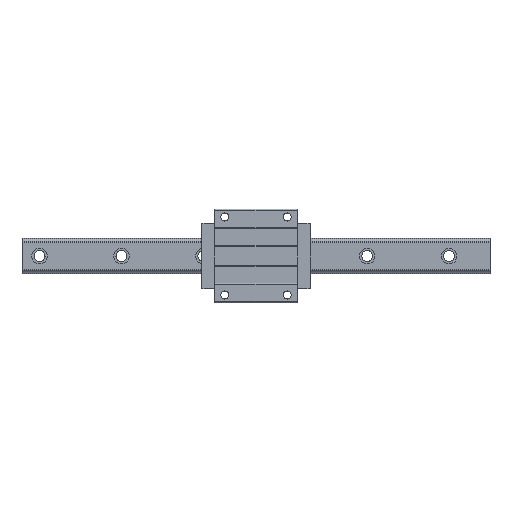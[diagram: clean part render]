
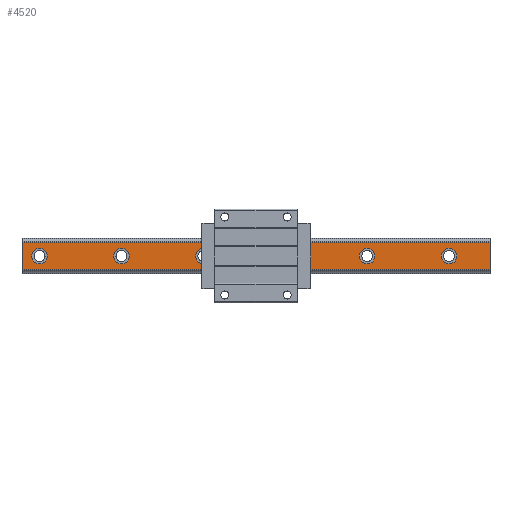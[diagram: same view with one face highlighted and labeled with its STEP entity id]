
A CAD part, top view. The second image highlights one B-rep face of the part: STEP entity #4520.
In plain terms, the highlighted planar face has unit normal (0, 0, 1).
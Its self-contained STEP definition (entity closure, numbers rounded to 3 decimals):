
#89 = VECTOR ( 'NONE', #6779, 1000. ) ;
#90 = AXIS2_PLACEMENT_3D ( 'NONE', #5292, #194, #723 ) ;
#138 = EDGE_LOOP ( 'NONE', ( #2060, #4748 ) ) ;
#194 = DIRECTION ( 'NONE',  ( 0., 0., 1. ) ) ;
#253 = ORIENTED_EDGE ( 'NONE', *, *, #2236, .F. ) ;
#270 = CIRCLE ( 'NONE', #2294, 10. ) ;
#301 = VERTEX_POINT ( 'NONE', #1741 ) ;
#349 = DIRECTION ( 'NONE',  ( 0., 0., 1. ) ) ;
#407 = CARTESIAN_POINT ( 'NONE',  ( 247.5, 0., 32. ) ) ;
#417 = CARTESIAN_POINT ( 'NONE',  ( 237.5, 0., 32. ) ) ;
#425 = ORIENTED_EDGE ( 'NONE', *, *, #3171, .T. ) ;
#450 = FACE_BOUND ( 'NONE', #6585, .T. ) ;
#548 = CARTESIAN_POINT ( 'NONE',  ( -77.5, 0., 32. ) ) ;
#597 = CARTESIAN_POINT ( 'NONE',  ( -57.5, 0., 32. ) ) ;
#604 = CARTESIAN_POINT ( 'NONE',  ( 300., -17.738, 32. ) ) ;
#607 = CARTESIAN_POINT ( 'NONE',  ( -67.5, 0., 32. ) ) ;
#614 = CARTESIAN_POINT ( 'NONE',  ( -162.5, 0., 32. ) ) ;
#723 = DIRECTION ( 'NONE',  ( 1., 0., 0. ) ) ;
#748 = DIRECTION ( 'NONE',  ( 0., 0., 1. ) ) ;
#755 = CIRCLE ( 'NONE', #4945, 10. ) ;
#757 = DIRECTION ( 'NONE',  ( 1., 0., 0. ) ) ;
#876 = CIRCLE ( 'NONE', #5418, 10. ) ;
#878 = AXIS2_PLACEMENT_3D ( 'NONE', #604, #5030, #5660 ) ;
#943 = EDGE_CURVE ( 'NONE', #4125, #6865, #7343, .T. ) ;
#985 = EDGE_CURVE ( 'NONE', #6865, #301, #1689, .T. ) ;
#1014 = VERTEX_POINT ( 'NONE', #417 ) ;
#1050 = ORIENTED_EDGE ( 'NONE', *, *, #2017, .F. ) ;
#1054 = PLANE ( 'NONE',  #878 ) ;
#1090 = FACE_BOUND ( 'NONE', #1979, .T. ) ;
#1099 = ORIENTED_EDGE ( 'NONE', *, *, #985, .F. ) ;
#1108 = AXIS2_PLACEMENT_3D ( 'NONE', #4241, #7073, #757 ) ;
#1227 = VERTEX_POINT ( 'NONE', #6930 ) ;
#1268 = DIRECTION ( 'NONE',  ( 1., 0., 0. ) ) ;
#1280 = DIRECTION ( 'NONE',  ( 0., 0., 1. ) ) ;
#1370 = CARTESIAN_POINT ( 'NONE',  ( -277.5, 0., 32. ) ) ;
#1435 = CIRCLE ( 'NONE', #6340, 10. ) ;
#1438 = EDGE_LOOP ( 'NONE', ( #1050, #2460 ) ) ;
#1544 = CARTESIAN_POINT ( 'NONE',  ( 47.5, 0., 32. ) ) ;
#1567 = DIRECTION ( 'NONE',  ( 1., 0., 0. ) ) ;
#1615 = FACE_OUTER_BOUND ( 'NONE', #6724, .T. ) ;
#1658 = DIRECTION ( 'NONE',  ( 0., -1., 0. ) ) ;
#1689 = LINE ( 'NONE', #6709, #89 ) ;
#1733 = CARTESIAN_POINT ( 'NONE',  ( 300., 17.738, 32. ) ) ;
#1741 = CARTESIAN_POINT ( 'NONE',  ( -300., -17.738, 32. ) ) ;
#1786 = CARTESIAN_POINT ( 'NONE',  ( 37.5, 0., 32. ) ) ;
#1854 = AXIS2_PLACEMENT_3D ( 'NONE', #1370, #3658, #7093 ) ;
#1979 = EDGE_LOOP ( 'NONE', ( #6713, #5019 ) ) ;
#2017 = EDGE_CURVE ( 'NONE', #2429, #6681, #270, .T. ) ;
#2060 = ORIENTED_EDGE ( 'NONE', *, *, #4968, .F. ) ;
#2187 = CIRCLE ( 'NONE', #2438, 10. ) ;
#2196 = CIRCLE ( 'NONE', #1854, 10. ) ;
#2210 = DIRECTION ( 'NONE',  ( 0., -1., 0. ) ) ;
#2236 = EDGE_CURVE ( 'NONE', #1227, #6801, #2773, .T. ) ;
#2294 = AXIS2_PLACEMENT_3D ( 'NONE', #607, #3377, #3904 ) ;
#2296 = EDGE_CURVE ( 'NONE', #1014, #2907, #755, .T. ) ;
#2363 = VECTOR ( 'NONE', #2210, 1000. ) ;
#2429 = VERTEX_POINT ( 'NONE', #597 ) ;
#2438 = AXIS2_PLACEMENT_3D ( 'NONE', #6405, #748, #5666 ) ;
#2460 = ORIENTED_EDGE ( 'NONE', *, *, #7086, .F. ) ;
#2502 = DIRECTION ( 'NONE',  ( 0., 0., 1. ) ) ;
#2525 = DIRECTION ( 'NONE',  ( 0., 0., 1. ) ) ;
#2603 = CARTESIAN_POINT ( 'NONE',  ( 300., 17.738, 32. ) ) ;
#2683 = CARTESIAN_POINT ( 'NONE',  ( -300., 17.738, 32. ) ) ;
#2697 = ORIENTED_EDGE ( 'NONE', *, *, #5590, .F. ) ;
#2773 = CIRCLE ( 'NONE', #1108, 10. ) ;
#2907 = VERTEX_POINT ( 'NONE', #6242 ) ;
#2915 = CARTESIAN_POINT ( 'NONE',  ( -287.5, 0., 32. ) ) ;
#2985 = CARTESIAN_POINT ( 'NONE',  ( 152.5, 0., 32. ) ) ;
#3057 = DIRECTION ( 'NONE',  ( -1., 0., 0. ) ) ;
#3081 = DIRECTION ( 'NONE',  ( 0., 0., 1. ) ) ;
#3085 = CIRCLE ( 'NONE', #4773, 10. ) ;
#3091 = CARTESIAN_POINT ( 'NONE',  ( 300., -17.738, 32. ) ) ;
#3116 = EDGE_CURVE ( 'NONE', #6570, #6429, #2196, .T. ) ;
#3171 = EDGE_CURVE ( 'NONE', #4125, #6536, #7056, .T. ) ;
#3173 = CARTESIAN_POINT ( 'NONE',  ( -182.5, 0., 32. ) ) ;
#3358 = CARTESIAN_POINT ( 'NONE',  ( -267.5, 0., 32. ) ) ;
#3377 = DIRECTION ( 'NONE',  ( 0., 0., 1. ) ) ;
#3413 = VERTEX_POINT ( 'NONE', #7376 ) ;
#3518 = CIRCLE ( 'NONE', #4595, 10. ) ;
#3566 = DIRECTION ( 'NONE',  ( 1., 0., 0. ) ) ;
#3622 = AXIS2_PLACEMENT_3D ( 'NONE', #6450, #3081, #5259 ) ;
#3658 = DIRECTION ( 'NONE',  ( 0., 0., 1. ) ) ;
#3672 = VERTEX_POINT ( 'NONE', #3173 ) ;
#3747 = CIRCLE ( 'NONE', #3622, 10. ) ;
#3904 = DIRECTION ( 'NONE',  ( 1., 0., 0. ) ) ;
#3918 = EDGE_CURVE ( 'NONE', #3413, #5256, #1435, .T. ) ;
#4125 = VERTEX_POINT ( 'NONE', #1733 ) ;
#4180 = CARTESIAN_POINT ( 'NONE',  ( 142.5, 0., 32. ) ) ;
#4196 = EDGE_CURVE ( 'NONE', #6536, #301, #7387, .T. ) ;
#4241 = CARTESIAN_POINT ( 'NONE',  ( 37.5, 0., 32. ) ) ;
#4520 = ADVANCED_FACE ( 'NONE', ( #6738, #4577, #450, #6219, #6181, #1090, #1615 ), #1054, .F. ) ;
#4577 = FACE_BOUND ( 'NONE', #6834, .T. ) ;
#4595 = AXIS2_PLACEMENT_3D ( 'NONE', #7035, #2502, #4799 ) ;
#4748 = ORIENTED_EDGE ( 'NONE', *, *, #2296, .F. ) ;
#4773 = AXIS2_PLACEMENT_3D ( 'NONE', #5517, #349, #6495 ) ;
#4799 = DIRECTION ( 'NONE',  ( 1., 0., 0. ) ) ;
#4917 = DIRECTION ( 'NONE',  ( 0., 0., 1. ) ) ;
#4945 = AXIS2_PLACEMENT_3D ( 'NONE', #407, #4917, #1567 ) ;
#4968 = EDGE_CURVE ( 'NONE', #2907, #1014, #2187, .T. ) ;
#4991 = EDGE_CURVE ( 'NONE', #5256, #3413, #3518, .T. ) ;
#5019 = ORIENTED_EDGE ( 'NONE', *, *, #6836, .F. ) ;
#5030 = DIRECTION ( 'NONE',  ( 0., 0., -1. ) ) ;
#5173 = ORIENTED_EDGE ( 'NONE', *, *, #943, .F. ) ;
#5256 = VERTEX_POINT ( 'NONE', #2985 ) ;
#5259 = DIRECTION ( 'NONE',  ( 1., 0., 0. ) ) ;
#5292 = CARTESIAN_POINT ( 'NONE',  ( -67.5, 0., 32. ) ) ;
#5340 = EDGE_CURVE ( 'NONE', #6801, #1227, #876, .T. ) ;
#5387 = VERTEX_POINT ( 'NONE', #614 ) ;
#5418 = AXIS2_PLACEMENT_3D ( 'NONE', #1786, #6950, #1268 ) ;
#5517 = CARTESIAN_POINT ( 'NONE',  ( -277.5, 0., 32. ) ) ;
#5590 = EDGE_CURVE ( 'NONE', #5387, #3672, #3747, .T. ) ;
#5632 = ORIENTED_EDGE ( 'NONE', *, *, #6019, .F. ) ;
#5660 = DIRECTION ( 'NONE',  ( 0., 1., 0. ) ) ;
#5666 = DIRECTION ( 'NONE',  ( 1., 0., 0. ) ) ;
#5728 = ORIENTED_EDGE ( 'NONE', *, *, #4196, .T. ) ;
#5831 = CIRCLE ( 'NONE', #6180, 10. ) ;
#5845 = CIRCLE ( 'NONE', #90, 10. ) ;
#5991 = ORIENTED_EDGE ( 'NONE', *, *, #5340, .F. ) ;
#6019 = EDGE_CURVE ( 'NONE', #3672, #5387, #5831, .T. ) ;
#6180 = AXIS2_PLACEMENT_3D ( 'NONE', #6928, #1280, #3566 ) ;
#6181 = FACE_BOUND ( 'NONE', #6546, .T. ) ;
#6219 = FACE_BOUND ( 'NONE', #1438, .T. ) ;
#6242 = CARTESIAN_POINT ( 'NONE',  ( 257.5, 0., 32. ) ) ;
#6274 = VECTOR ( 'NONE', #3057, 1000. ) ;
#6340 = AXIS2_PLACEMENT_3D ( 'NONE', #4180, #2525, #6458 ) ;
#6405 = CARTESIAN_POINT ( 'NONE',  ( 247.5, 0., 32. ) ) ;
#6429 = VERTEX_POINT ( 'NONE', #2915 ) ;
#6450 = CARTESIAN_POINT ( 'NONE',  ( -172.5, 0., 32. ) ) ;
#6458 = DIRECTION ( 'NONE',  ( 1., 0., 0. ) ) ;
#6495 = DIRECTION ( 'NONE',  ( 1., 0., 0. ) ) ;
#6536 = VERTEX_POINT ( 'NONE', #2683 ) ;
#6546 = EDGE_LOOP ( 'NONE', ( #2697, #5632 ) ) ;
#6570 = VERTEX_POINT ( 'NONE', #3358 ) ;
#6585 = EDGE_LOOP ( 'NONE', ( #5991, #253 ) ) ;
#6679 = ORIENTED_EDGE ( 'NONE', *, *, #3918, .F. ) ;
#6681 = VERTEX_POINT ( 'NONE', #548 ) ;
#6709 = CARTESIAN_POINT ( 'NONE',  ( 300., -17.738, 32. ) ) ;
#6713 = ORIENTED_EDGE ( 'NONE', *, *, #3116, .F. ) ;
#6716 = ORIENTED_EDGE ( 'NONE', *, *, #4991, .F. ) ;
#6724 = EDGE_LOOP ( 'NONE', ( #5728, #1099, #5173, #425 ) ) ;
#6738 = FACE_BOUND ( 'NONE', #138, .T. ) ;
#6779 = DIRECTION ( 'NONE',  ( -1., 0., 0. ) ) ;
#6801 = VERTEX_POINT ( 'NONE', #1544 ) ;
#6823 = CARTESIAN_POINT ( 'NONE',  ( -300., -17.738, 32. ) ) ;
#6834 = EDGE_LOOP ( 'NONE', ( #6716, #6679 ) ) ;
#6836 = EDGE_CURVE ( 'NONE', #6429, #6570, #3085, .T. ) ;
#6865 = VERTEX_POINT ( 'NONE', #3091 ) ;
#6928 = CARTESIAN_POINT ( 'NONE',  ( -172.5, 0., 32. ) ) ;
#6930 = CARTESIAN_POINT ( 'NONE',  ( 27.5, 0., 32. ) ) ;
#6934 = VECTOR ( 'NONE', #1658, 1000. ) ;
#6950 = DIRECTION ( 'NONE',  ( 0., 0., 1. ) ) ;
#7035 = CARTESIAN_POINT ( 'NONE',  ( 142.5, 0., 32. ) ) ;
#7056 = LINE ( 'NONE', #2603, #6274 ) ;
#7073 = DIRECTION ( 'NONE',  ( 0., 0., 1. ) ) ;
#7086 = EDGE_CURVE ( 'NONE', #6681, #2429, #5845, .T. ) ;
#7093 = DIRECTION ( 'NONE',  ( 1., 0., 0. ) ) ;
#7343 = LINE ( 'NONE', #7382, #2363 ) ;
#7376 = CARTESIAN_POINT ( 'NONE',  ( 132.5, 0., 32. ) ) ;
#7382 = CARTESIAN_POINT ( 'NONE',  ( 300., -17.738, 32. ) ) ;
#7387 = LINE ( 'NONE', #6823, #6934 ) ;
